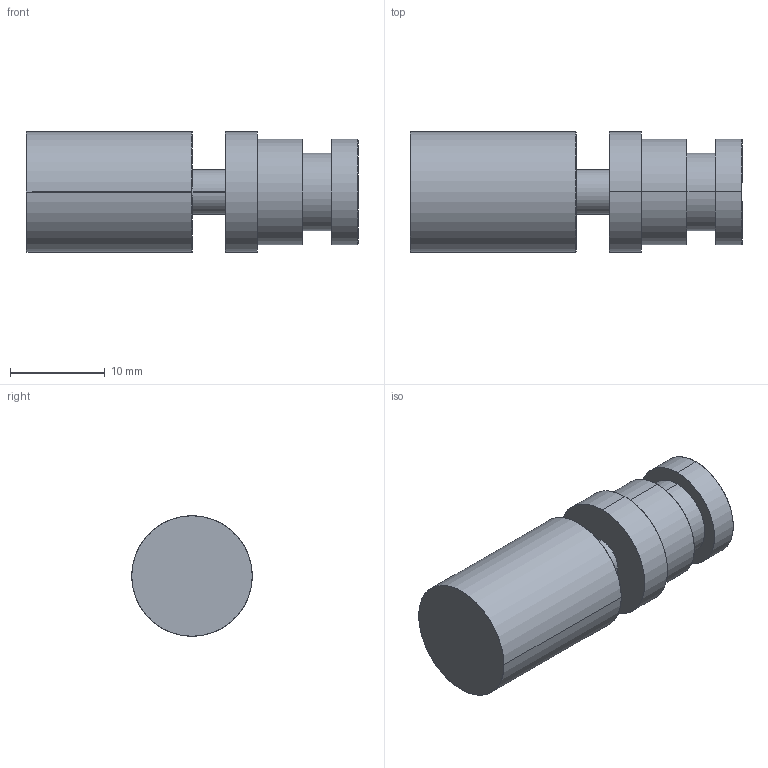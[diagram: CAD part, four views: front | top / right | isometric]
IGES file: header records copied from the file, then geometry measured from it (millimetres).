
Start section: SolidWorks IGES file using analytic representation for surfaces
Global section: file name: M:\solidworks files\firearms cad files\files to send to FUbob @cncguns\IGS files for FF site\selector.IGS; native system: SolidWorks 2008; preprocessor: SolidWorks 2008; author: owner; date: 100407.234440; units: millimetre
Bounding box: 35 x 12.7 x 12.7 mm (x, y, z)
Surface area: 1787.8 mm2 (no closed solid volume)
Topology: 0 solids, 0 shells, 19 faces, 432 edges, 432 vertices
Faces by surface type: revolution 12, bspline 7
